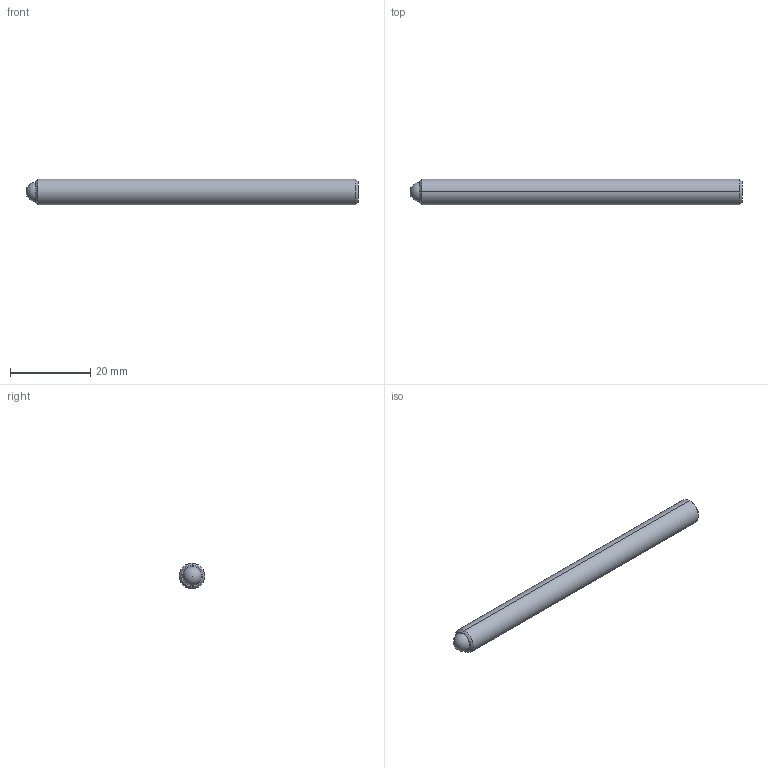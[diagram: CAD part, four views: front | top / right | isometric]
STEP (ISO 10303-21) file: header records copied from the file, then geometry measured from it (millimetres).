
FILE_DESCRIPTION (( 'STEP AP214' ), '1' );
FILE_NAME ('TS250-100-3250-AA.STEP', '2013-02-13T14:16:13', ( 'workpc' ), ( 'Microsoft' ), 'SwSTEP 2.0', 'SolidWorks 2013', '' );
FILE_SCHEMA (( 'AUTOMOTIVE_DESIGN' ));
Length unit declared in the file: inch
Products named in the file (1): TS250-100-3250-AA
Bounding box: 82.55 x 6.35 x 6.35 mm (x, y, z)
Volume: 2547.4 mm3; surface area: 1766.7 mm2
Topology: 2 solids, 2 shells, 20 faces, 45 edges, 29 vertices
Faces by surface type: plane 10, cylinder 4, cone 4, sphere 2
Entity records: 599 total; most frequent: DIRECTION 96, CARTESIAN_POINT 87, ORIENTED_EDGE 80, EDGE_CURVE 40, AXIS2_PLACEMENT_3D 35, VECTOR 26, LINE 26, VERTEX_POINT 26
